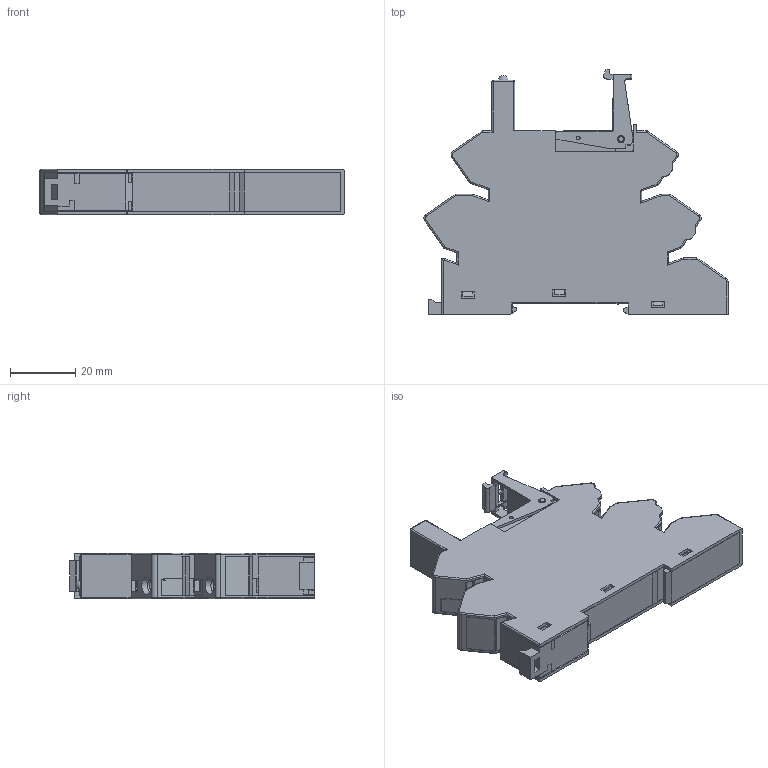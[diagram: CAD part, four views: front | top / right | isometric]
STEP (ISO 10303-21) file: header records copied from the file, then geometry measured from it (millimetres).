
FILE_DESCRIPTION(('STEP AP214'),'2;1');
FILE_NAME('9352_catalogo_ok.stp','2012-03-16T15:05:17',(''),(''),'2007.1.106','THINKDESIGN','');
FILE_SCHEMA(('AUTOMOTIVE_DESIGN'));
Length unit declared in the file: millimetre
Products named in the file (1): top
Bounding box: 93 x 74.9 x 14 mm (x, y, z)
Surface area: 32175.1 mm2 (no closed solid volume)
Topology: 0 solids, 0 shells, 837 faces, 5374 edges, 5371 vertices
Faces by surface type: plane 621, cylinder 185, bspline 31
Full cylindrical faces by diameter (mm): 1.2 x2, 1.5 x2, 2.2 x2, 3.8 x8
Entity records: 45137 total; most frequent: CARTESIAN_POINT 14154, DIRECTION 6733, COMPOSITE_CURVE_SEGMENT 5371, TRIMMED_CURVE 4819, VECTOR 4519, LINE 4519, AXIS2_PLACEMENT_3D 1107, OUTER_BOUNDARY_CURVE 837
